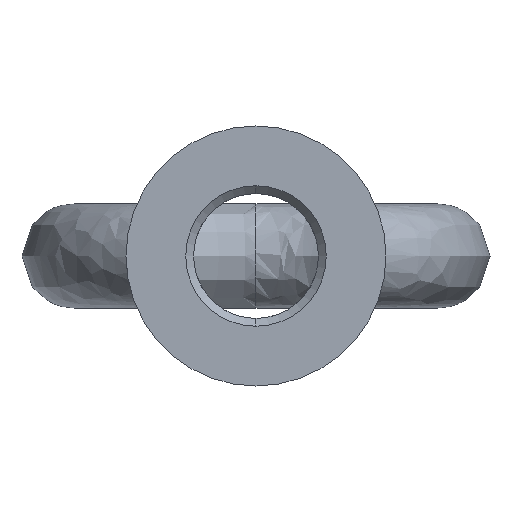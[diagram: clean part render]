
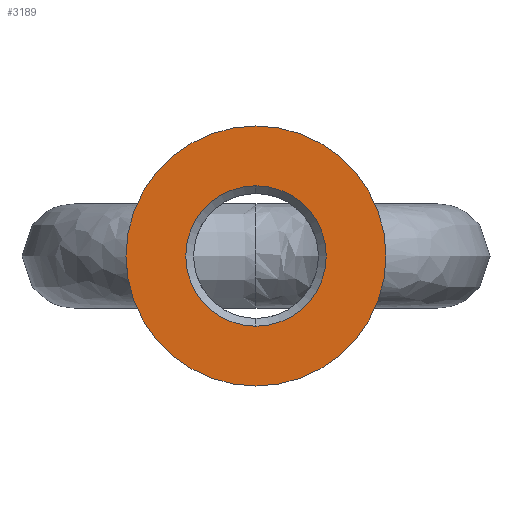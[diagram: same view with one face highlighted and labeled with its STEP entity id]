
A CAD part, front view. The second image highlights one B-rep face of the part: STEP entity #3189.
In plain terms, the highlighted planar face has unit normal (0, -1, 0).
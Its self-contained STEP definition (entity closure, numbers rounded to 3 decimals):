
#59 = CARTESIAN_POINT ( 'NONE',  ( 0., 0., 0. ) ) ;
#94 = DIRECTION ( 'NONE',  ( 0., 0., 1. ) ) ;
#201 = DIRECTION ( 'NONE',  ( 0., 1., 0. ) ) ;
#241 = FACE_OUTER_BOUND ( 'NONE', #1198, .T. ) ;
#254 = CIRCLE ( 'NONE', #3134, 25. ) ;
#350 = CARTESIAN_POINT ( 'NONE',  ( 0., 0., 0. ) ) ;
#520 = DIRECTION ( 'NONE',  ( 0., 0., -1. ) ) ;
#646 = CIRCLE ( 'NONE', #2603, 13.5 ) ;
#710 = VERTEX_POINT ( 'NONE', #3020 ) ;
#726 = DIRECTION ( 'NONE',  ( 0., 1., 0. ) ) ;
#830 = DIRECTION ( 'NONE',  ( 0., 1., 0. ) ) ;
#1002 = ORIENTED_EDGE ( 'NONE', *, *, #2024, .T. ) ;
#1066 = EDGE_LOOP ( 'NONE', ( #2931, #1002 ) ) ;
#1088 = EDGE_CURVE ( 'NONE', #2972, #710, #3186, .T. ) ;
#1198 = EDGE_LOOP ( 'NONE', ( #2529, #3245 ) ) ;
#1260 = PLANE ( 'NONE',  #3091 ) ;
#1296 = AXIS2_PLACEMENT_3D ( 'NONE', #350, #2132, #94 ) ;
#1299 = CIRCLE ( 'NONE', #2337, 13.5 ) ;
#1467 = CARTESIAN_POINT ( 'NONE',  ( 0., 0., 13.5 ) ) ;
#1746 = FACE_BOUND ( 'NONE', #1066, .T. ) ;
#2024 = EDGE_CURVE ( 'NONE', #2178, #2578, #646, .T. ) ;
#2132 = DIRECTION ( 'NONE',  ( 0., 1., 0. ) ) ;
#2178 = VERTEX_POINT ( 'NONE', #1467 ) ;
#2261 = DIRECTION ( 'NONE',  ( 0., -1., 0. ) ) ;
#2319 = CARTESIAN_POINT ( 'NONE',  ( 0., 0., -13.5 ) ) ;
#2337 = AXIS2_PLACEMENT_3D ( 'NONE', #2725, #201, #3220 ) ;
#2436 = EDGE_CURVE ( 'NONE', #710, #2972, #254, .T. ) ;
#2455 = CARTESIAN_POINT ( 'NONE',  ( 0., 0., -25. ) ) ;
#2517 = CARTESIAN_POINT ( 'NONE',  ( 0., 0., 0. ) ) ;
#2529 = ORIENTED_EDGE ( 'NONE', *, *, #1088, .F. ) ;
#2578 = VERTEX_POINT ( 'NONE', #2319 ) ;
#2587 = DIRECTION ( 'NONE',  ( 0., 0., 1. ) ) ;
#2603 = AXIS2_PLACEMENT_3D ( 'NONE', #2706, #726, #3222 ) ;
#2706 = CARTESIAN_POINT ( 'NONE',  ( 0., 0., 0. ) ) ;
#2725 = CARTESIAN_POINT ( 'NONE',  ( 0., 0., 0. ) ) ;
#2931 = ORIENTED_EDGE ( 'NONE', *, *, #2998, .T. ) ;
#2972 = VERTEX_POINT ( 'NONE', #2455 ) ;
#2998 = EDGE_CURVE ( 'NONE', #2578, #2178, #1299, .T. ) ;
#3020 = CARTESIAN_POINT ( 'NONE',  ( 0., 0., 25. ) ) ;
#3091 = AXIS2_PLACEMENT_3D ( 'NONE', #2517, #2261, #520 ) ;
#3134 = AXIS2_PLACEMENT_3D ( 'NONE', #59, #830, #2587 ) ;
#3186 = CIRCLE ( 'NONE', #1296, 25. ) ;
#3189 = ADVANCED_FACE ( 'NONE', ( #1746, #241 ), #1260, .T. ) ;
#3220 = DIRECTION ( 'NONE',  ( 0., 0., -1. ) ) ;
#3222 = DIRECTION ( 'NONE',  ( 0., 0., -1. ) ) ;
#3245 = ORIENTED_EDGE ( 'NONE', *, *, #2436, .F. ) ;
